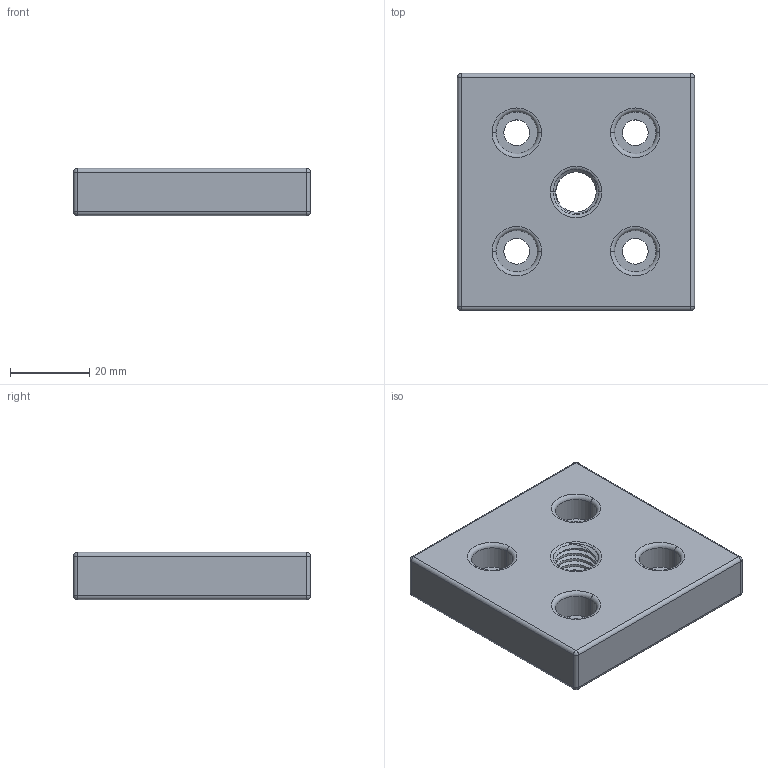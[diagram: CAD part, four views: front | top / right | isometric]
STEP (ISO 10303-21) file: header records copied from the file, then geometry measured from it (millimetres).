
FILE_DESCRIPTION (( 'STEP AP214' ), '1' );
FILE_NAME ('102-CE-SEC6060G-6.STEP', '2015-07-09T08:38:19', ( '' ), ( '' ), 'SwSTEP 2.0', 'SolidWorks 2013', '' );
FILE_SCHEMA (( 'AUTOMOTIVE_DESIGN' ));
Length unit declared in the file: millimetre
Products named in the file (1): 102-CE-SEC6060G-6
Bounding box: 60 x 60 x 12 mm (x, y, z)
Volume: 38870 mm3; surface area: 11308.6 mm2
Topology: 1 solids, 1 shells, 76 faces, 183 edges, 105 vertices
Faces by surface type: cylinder 42, torus 10, plane 10, sphere 8, cone 4, bspline 2
Entity records: 3385 total; most frequent: CARTESIAN_POINT 1653, DIRECTION 372, ORIENTED_EDGE 350, EDGE_CURVE 175, AXIS2_PLACEMENT_3D 158, VERTEX_POINT 105, EDGE_LOOP 90, CIRCLE 83
